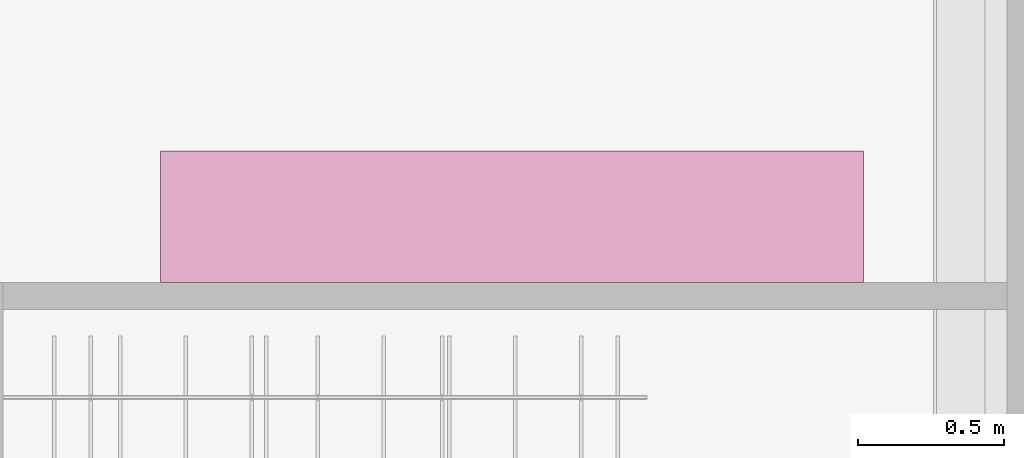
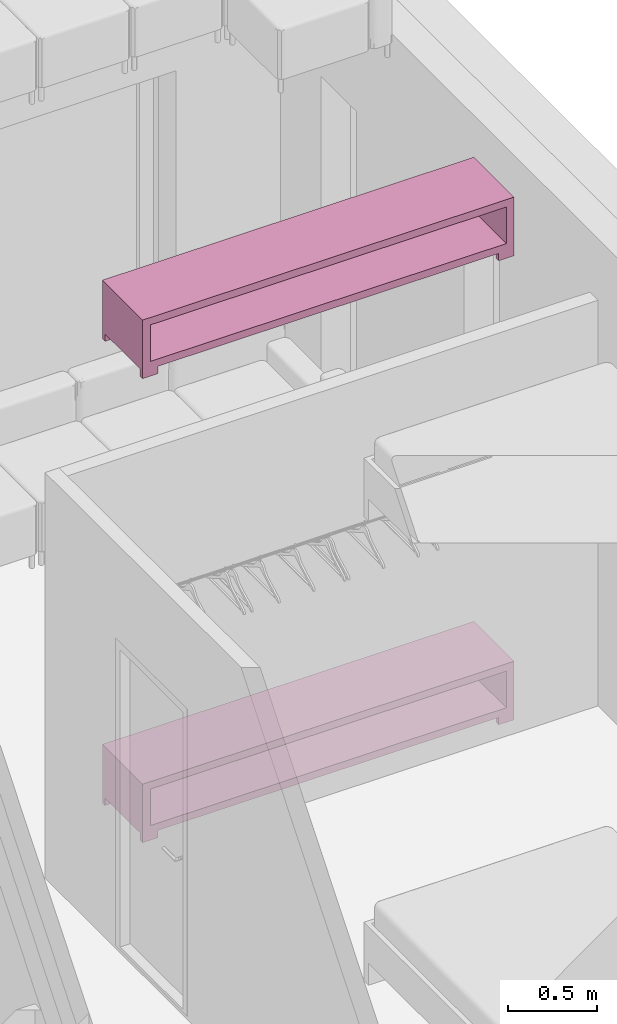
# One storey, part 93 of 125: 2 furnishings.
"""IFC2X3 building model written with IfcOpenShell, lengths in millimetres."""

from ifc_helpers import new_model, entity, si_unit, converted_unit, direction, frame, frame_2d, origin, origin_2d_with_axis, place, context, subcontext, project, spatial, polyline, rectangle, outline, extrude, source, transform, mapped, material, type_object, type_shapes, element, save


model = new_model("IFC2X3")

# Units and contexts
model_context = context("Model", 3, precision=0.01, world=origin(), true_north=direction((6.123233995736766e-17, 1.0)))
plan_context = context("Plan", 3, precision=0.01, world=origin(), true_north=direction((6.123233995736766e-17, 1.0)))
body_context = subcontext(model_context, "Body", "Model", "MODEL_VIEW")
ifc_project = project(units=[si_unit("LENGTHUNIT", "METRE", prefix="MILLI"), converted_unit("PLANEANGLEUNIT", "DEGREE", entity("IfcPlaneAngleMeasure", 0.017453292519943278), si_unit("PLANEANGLEUNIT", "RADIAN"), dimensions=[0, 0, 0, 0, 0, 0, 0]), si_unit("AREAUNIT", "SQUARE_METRE")], contexts=[model_context, plan_context])

# Site, building, storey, space
site_placement = place(None, origin())
site = spatial("IfcSite", under=ifc_project, at=site_placement, Name="Default", CompositionType="ELEMENT")
building_placement = place(site_placement, origin())
building = spatial("IfcBuilding", under=site, at=building_placement, CompositionType="ELEMENT")
storey_placement = place(building_placement, frame((0.0, 0.0, 3125.0)))
storey = spatial("IfcBuildingStorey", under=building, at=storey_placement, Name="2K", CompositionType="ELEMENT", Elevation=3125.0)
space_placement = place(storey_placement, origin())
space = spatial("IfcSpace", under=storey, at=space_placement, Name="2-3.2", CompositionType="ELEMENT", InteriorOrExteriorSpace="INTERNAL")

# Furnishings
ifc_material = material(Name="<Unnamed>")
furniture_type = type_object("IfcFurnitureType", Name="HR_Furniture_TV-stand_Generic_v2016-05-13:Default", AssemblyPlace="NOTDEFINED", material=ifc_material)
shared_shape = source(origin(), body_context, "Body", "SweptSolid", [
    extrude(rectangle(XDim=99.99999999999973, YDim=29.999999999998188, at=origin_2d_with_axis()), frame((1150.0, 15.0, 0.0), z_axis=(0.0, 0.0, 1.0), x_axis=(-1.0, 0.0, 0.0)), (0.0, 0.0, 1.0), 49.99999999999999),
    extrude(rectangle(XDim=30.000000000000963, YDim=99.99999999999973, at=frame_2d((-3.375077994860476e-14, 0.0), x_axis=(1.0, 0.0))), frame((1150.0, 435.0, 0.0), z_axis=(0.0, 0.0, 1.0), x_axis=(0.0, 1.0, 0.0)), (0.0, 0.0, 1.0), 49.99999999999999),
    extrude(rectangle(XDim=30.000000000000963, YDim=99.99999999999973, at=frame_2d((-3.375077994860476e-14, 0.0), x_axis=(1.0, 0.0))), frame((-1150.0, 435.0, 0.0), z_axis=(0.0, 0.0, 1.0), x_axis=(0.0, 1.0, 0.0)), (0.0, 0.0, 1.0), 49.99999999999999),
    extrude(rectangle(XDim=99.99999999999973, YDim=29.999999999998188, at=origin_2d_with_axis()), frame((-1150.0, 15.0, 0.0), z_axis=(0.0, 0.0, 1.0), x_axis=(-1.0, 0.0, 0.0)), (0.0, 0.0, 1.0), 49.99999999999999),
    extrude(outline(polyline([(-175.0, -1200.0), (175.0, -1200.0), (175.0, 1200.0), (-175.0, 1200.0), (-175.0, -1200.0)]), holes=[polyline([(-125.0, -1150.0), (-125.0, 1150.0), (125.0, 1150.0), (125.0, -1150.0), (-125.0, -1150.0)])]), frame((0.0, 0.0, 225.0), z_axis=(0.0, 1.0, 0.0), x_axis=(0.0, 0.0, -1.0)), (0.0, 0.0, 1.0), 449.9999999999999),
])
type_shapes(furniture_type, [shared_shape])
for number, where in (
    (1, (15210.500000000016, 11940.0, 0.0)),
    (2, (15210.500000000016, 11940.0, 3170.0)),
):
    element("IfcFurnishingElement", number, at=place(space_placement, frame(where)), inside=space, type_object=furniture_type, material=ifc_material, Name="HR_Furniture_TV-stand_Generic_v2016-05-13:Default", ObjectType="HR_Furniture_TV-stand_Generic_v2016-05-13:Default", context=body_context, shape_type="MappedRepresentation", body=[
        mapped(shared_shape, transform((0.0, 0.0, 0.0), scale=1.0)),
    ])

save(model, "model.ifc")
